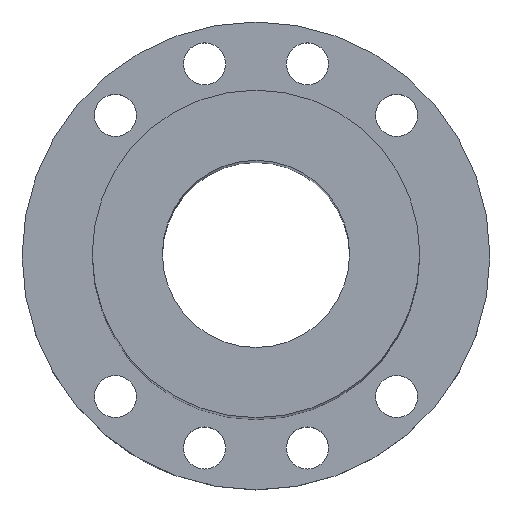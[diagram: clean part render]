
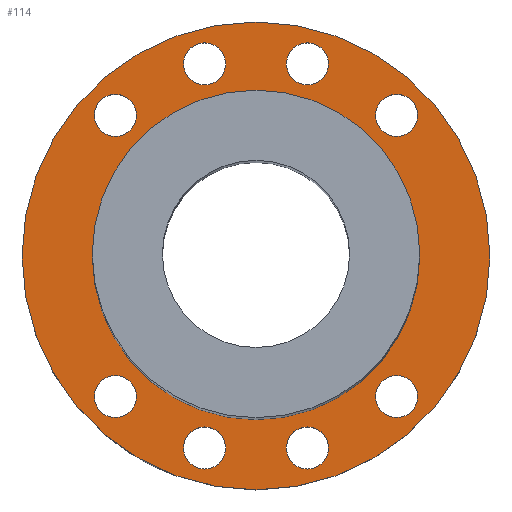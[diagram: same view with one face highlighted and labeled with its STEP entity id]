
A CAD part, top view. The second image highlights one B-rep face of the part: STEP entity #114.
In plain terms, the highlighted planar face has unit normal (0, 0, 1).
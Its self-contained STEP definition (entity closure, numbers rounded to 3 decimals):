
#99=PLANE('',#401);
#114=ADVANCED_FACE('',(#169,#170,#171,#172,#173,#174,#175,#176,#177,#178),
#99,.T.);
#169=FACE_BOUND('',#221,.T.);
#170=FACE_BOUND('',#222,.T.);
#171=FACE_BOUND('',#223,.T.);
#172=FACE_BOUND('',#224,.T.);
#173=FACE_BOUND('',#225,.T.);
#174=FACE_BOUND('',#226,.T.);
#175=FACE_BOUND('',#227,.T.);
#176=FACE_BOUND('',#228,.T.);
#177=FACE_BOUND('',#229,.T.);
#178=FACE_BOUND('',#230,.T.);
#221=EDGE_LOOP('',(#273));
#222=EDGE_LOOP('',(#274));
#223=EDGE_LOOP('',(#275));
#224=EDGE_LOOP('',(#276));
#225=EDGE_LOOP('',(#277));
#226=EDGE_LOOP('',(#278));
#227=EDGE_LOOP('',(#279));
#228=EDGE_LOOP('',(#280));
#229=EDGE_LOOP('',(#281));
#230=EDGE_LOOP('',(#282));
#273=ORIENTED_EDGE('',*,*,#316,.T.);
#274=ORIENTED_EDGE('',*,*,#337,.F.);
#275=ORIENTED_EDGE('',*,*,#336,.F.);
#276=ORIENTED_EDGE('',*,*,#335,.F.);
#277=ORIENTED_EDGE('',*,*,#334,.T.);
#278=ORIENTED_EDGE('',*,*,#333,.T.);
#279=ORIENTED_EDGE('',*,*,#332,.F.);
#280=ORIENTED_EDGE('',*,*,#318,.T.);
#281=ORIENTED_EDGE('',*,*,#331,.T.);
#282=ORIENTED_EDGE('',*,*,#338,.T.);
#290=VERTEX_POINT('',#495);
#292=VERTEX_POINT('',#557);
#305=VERTEX_POINT('',#644);
#306=VERTEX_POINT('',#647);
#307=VERTEX_POINT('',#650);
#308=VERTEX_POINT('',#653);
#309=VERTEX_POINT('',#656);
#310=VERTEX_POINT('',#659);
#311=VERTEX_POINT('',#662);
#312=VERTEX_POINT('',#665);
#316=EDGE_CURVE('',#290,#290,#342,.T.);
#318=EDGE_CURVE('',#292,#292,#343,.T.);
#331=EDGE_CURVE('',#305,#305,#355,.T.);
#332=EDGE_CURVE('',#306,#306,#356,.T.);
#333=EDGE_CURVE('',#307,#307,#357,.T.);
#334=EDGE_CURVE('',#308,#308,#358,.T.);
#335=EDGE_CURVE('',#309,#309,#359,.T.);
#336=EDGE_CURVE('',#310,#310,#360,.T.);
#337=EDGE_CURVE('',#311,#311,#361,.T.);
#338=EDGE_CURVE('',#312,#312,#362,.T.);
#342=CIRCLE('',#367,50.);
#343=CIRCLE('',#369,35.);
#355=CIRCLE('',#385,4.5);
#356=CIRCLE('',#387,4.5);
#357=CIRCLE('',#389,4.5);
#358=CIRCLE('',#391,4.5);
#359=CIRCLE('',#393,4.5);
#360=CIRCLE('',#395,4.5);
#361=CIRCLE('',#397,4.5);
#362=CIRCLE('',#399,4.5);
#367=AXIS2_PLACEMENT_3D('',#494,#411,#412);
#369=AXIS2_PLACEMENT_3D('',#556,#415,#416);
#385=AXIS2_PLACEMENT_3D('',#643,#447,#448);
#387=AXIS2_PLACEMENT_3D('',#646,#451,#452);
#389=AXIS2_PLACEMENT_3D('',#649,#455,#456);
#391=AXIS2_PLACEMENT_3D('',#652,#459,#460);
#393=AXIS2_PLACEMENT_3D('',#655,#463,#464);
#395=AXIS2_PLACEMENT_3D('',#658,#467,#468);
#397=AXIS2_PLACEMENT_3D('',#661,#471,#472);
#399=AXIS2_PLACEMENT_3D('',#664,#475,#476);
#401=AXIS2_PLACEMENT_3D('',#667,#479,#480);
#411=DIRECTION('',(0.,0.,1.));
#412=DIRECTION('',(1.,0.,0.));
#415=DIRECTION('',(0.,0.,-1.));
#416=DIRECTION('',(1.,0.,0.));
#447=DIRECTION('',(0.,0.,-1.));
#448=DIRECTION('',(-1.,0.,0.));
#451=DIRECTION('',(0.,0.,1.));
#452=DIRECTION('',(-1.,0.,0.));
#455=DIRECTION('',(0.,0.,-1.));
#456=DIRECTION('',(-1.,0.,0.));
#459=DIRECTION('',(0.,0.,-1.));
#460=DIRECTION('',(1.,0.,0.));
#463=DIRECTION('',(0.,0.,1.));
#464=DIRECTION('',(-1.,0.,0.));
#467=DIRECTION('',(0.,0.,1.));
#468=DIRECTION('',(1.,0.,0.));
#471=DIRECTION('',(0.,0.,1.));
#472=DIRECTION('',(1.,0.,0.));
#475=DIRECTION('',(0.,0.,-1.));
#476=DIRECTION('',(1.,0.,0.));
#479=DIRECTION('',(0.,0.,1.));
#480=DIRECTION('',(1.,0.,0.));
#494=CARTESIAN_POINT('',(0.,0.,14.));
#495=CARTESIAN_POINT('',(50.,0.,14.));
#556=CARTESIAN_POINT('',(0.,0.,14.));
#557=CARTESIAN_POINT('',(35.,0.,14.));
#643=CARTESIAN_POINT('',(30.052,30.052,14.));
#644=CARTESIAN_POINT('',(25.552,30.052,14.));
#646=CARTESIAN_POINT('',(30.052,-30.052,14.));
#647=CARTESIAN_POINT('',(25.552,-30.052,14.));
#649=CARTESIAN_POINT('',(11.,41.052,14.));
#650=CARTESIAN_POINT('',(6.5,41.052,14.));
#652=CARTESIAN_POINT('',(-30.052,-30.052,14.));
#653=CARTESIAN_POINT('',(-25.552,-30.052,14.));
#655=CARTESIAN_POINT('',(11.,-41.052,14.));
#656=CARTESIAN_POINT('',(6.5,-41.052,14.));
#658=CARTESIAN_POINT('',(-11.,41.052,14.));
#659=CARTESIAN_POINT('',(-6.5,41.052,14.));
#661=CARTESIAN_POINT('',(-30.052,30.052,14.));
#662=CARTESIAN_POINT('',(-25.552,30.052,14.));
#664=CARTESIAN_POINT('',(-11.,-41.052,14.));
#665=CARTESIAN_POINT('',(-6.5,-41.052,14.));
#667=CARTESIAN_POINT('',(-15.026,15.026,14.));
